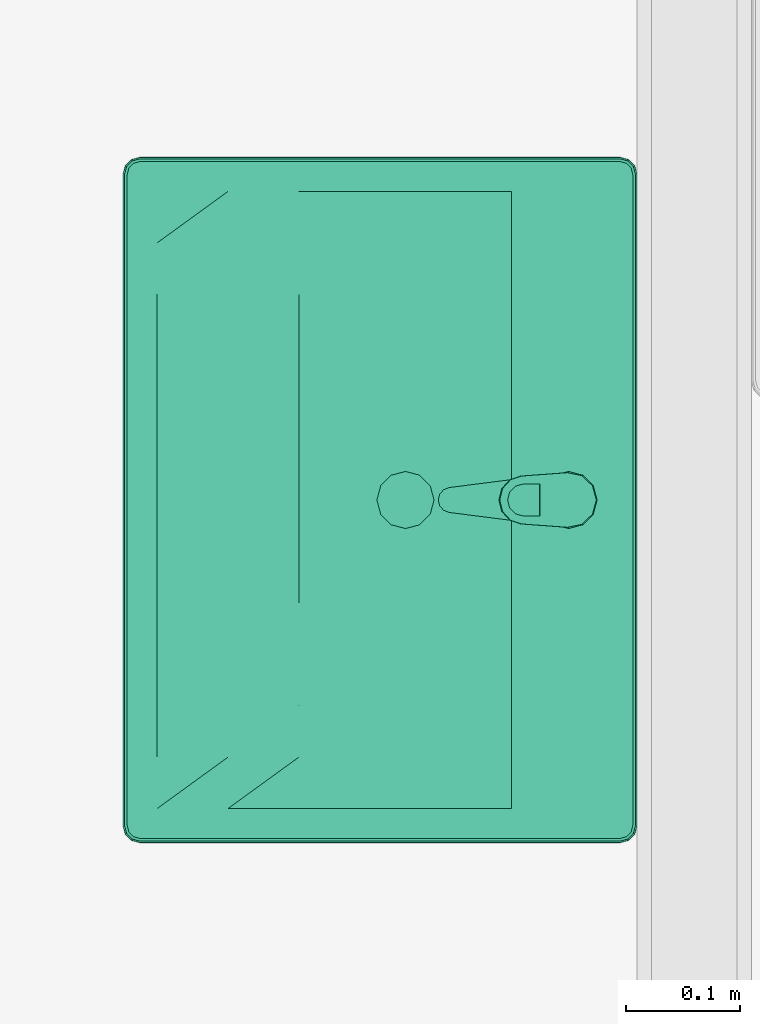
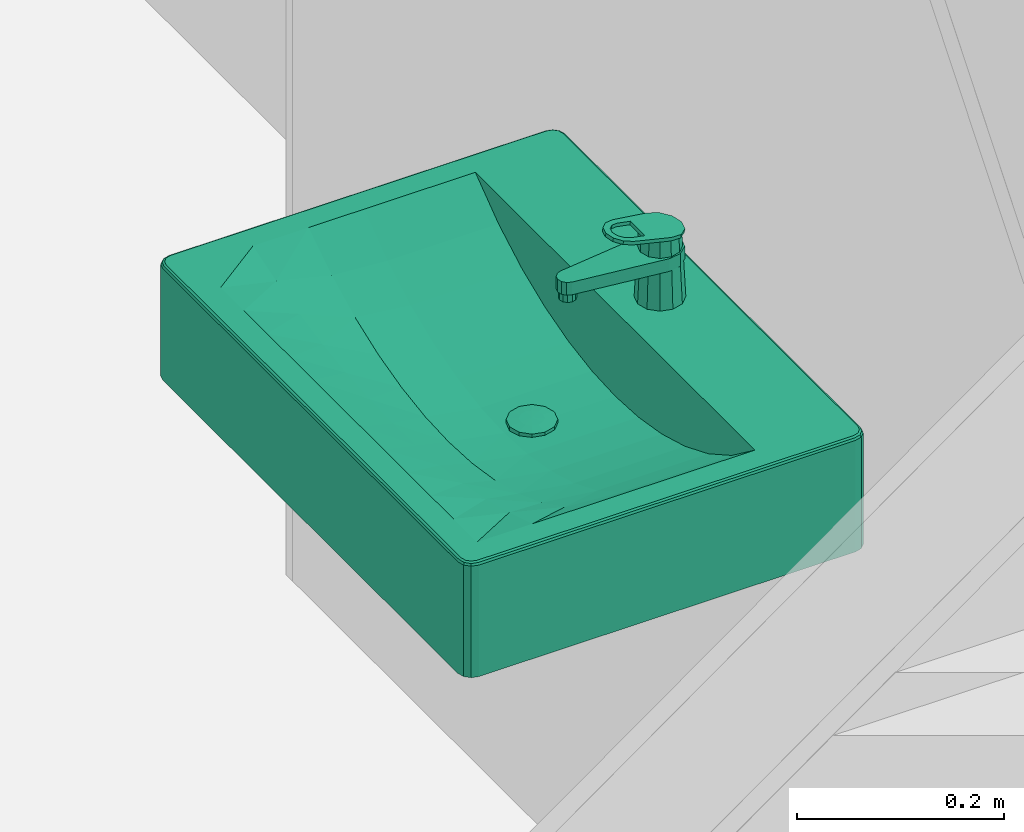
# One storey, part 116 of 135: 1 flow controller.
"""IFC2X3 building model written with IfcOpenShell, lengths in millimetres."""

from ifc_helpers import new_model, entity, si_unit, converted_unit, derived_unit, money_unit, direction, frame, origin_with_axes, place, context, subcontext, project, spatial, open_shell, faceted_brep, surface_model, source, transform, mapped, type_object, type_shapes, element, save


model = new_model("IFC2X3")

# Units and contexts
model_context = context("Model", 3, precision=0.01, world=origin_with_axes(), true_north=direction((0.0, 1.0)))
body_context = subcontext(model_context, "Body", "Model", "MODEL_VIEW")
ifc_project = project(units=[si_unit("LENGTHUNIT", "METRE", prefix="MILLI"), si_unit("AREAUNIT", "SQUARE_METRE"), si_unit("VOLUMEUNIT", "CUBIC_METRE"), converted_unit("PLANEANGLEUNIT", "DEGREE", entity("IfcPlaneAngleMeasure", 0.0174532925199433), si_unit("PLANEANGLEUNIT", "RADIAN"), dimensions=[0, 0, 0, 0, 0, 0, 0]), money_unit("EUR"), converted_unit("TIMEUNIT", "Year", entity("IfcTimeMeasure", 31557600.0), si_unit("TIMEUNIT", "SECOND"), dimensions=[0, 0, 1, 0, 0, 0, 0]), si_unit("MASSUNIT", "GRAM", prefix="KILO"), si_unit("THERMODYNAMICTEMPERATUREUNIT", "DEGREE_CELSIUS"), si_unit("LUMINOUSINTENSITYUNIT", "LUMEN"), si_unit("ENERGYUNIT", "JOULE", prefix="MEGA"), derived_unit("THERMALCONDUCTANCEUNIT", [(si_unit("POWERUNIT", "WATT"), 1), (si_unit("LENGTHUNIT", "METRE"), -1), (si_unit("THERMODYNAMICTEMPERATUREUNIT", "KELVIN"), -1)]), derived_unit("SPECIFICHEATCAPACITYUNIT", [(si_unit("ENERGYUNIT", "JOULE"), 1), (si_unit("MASSUNIT", "GRAM", prefix="KILO"), -1), (si_unit("THERMODYNAMICTEMPERATUREUNIT", "KELVIN"), -1)]), derived_unit("MASSDENSITYUNIT", [(si_unit("MASSUNIT", "GRAM", prefix="KILO"), 1), (si_unit("VOLUMEUNIT", "CUBIC_METRE"), -1)])], contexts=[model_context])

# Site, building, storey
site_placement = place(None, origin_with_axes())
site = spatial("IfcSite", under=ifc_project, at=site_placement, Name="Site", CompositionType="ELEMENT")
building_placement = place(site_placement, origin_with_axes())
building = spatial("IfcBuilding", under=site, at=building_placement, Name="Naam gebouw", CompositionType="ELEMENT")
storey_placement = place(building_placement, origin_with_axes())
storey = spatial("IfcBuildingStorey", under=building, at=storey_placement, Name="Begane grond N", CompositionType="ELEMENT", Elevation=0.0)

# Flow controller
valve_type = type_object("IfcValveType", Name="Wasbak 27", PredefinedType="NOTDEFINED")
shared_shape = source(origin_with_axes(), body_context, "Body", "SurfaceModel", [
    faceted_brep([(-285.0, -450.0, 865.0), (-292.5, -447.9903810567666, 865.0), (-297.9903810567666, -442.5, 865.0), (-300.0, -435.0, 865.0), (-300.0, -15.00000000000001, 865.0), (-297.9903810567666, -7.500000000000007, 865.0), (-292.5, -2.009618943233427, 865.0), (-285.0, 0.0, 865.0), (285.0, 0.0, 865.0), (292.5, -2.009618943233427, 865.0), (297.9903810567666, -7.500000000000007, 865.0), (300.0, -15.00000000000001, 865.0), (300.0, -435.0, 865.0), (297.9903810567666, -442.5, 865.0), (292.5, -447.9903810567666, 865.0), (285.0, -450.0, 865.0), (270.0, -420.0000000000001, 865.0), (270.0, -110.0, 865.0), (-270.0, -110.0, 865.0), (-270.0, -420.0000000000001, 865.0), (-284.9999995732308, -450.0000003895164, 995.0), (-292.499999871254, -447.9903813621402, 995.0), (-297.990381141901, -442.5000000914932, 995.0), (-300.0000001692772, -434.99999979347, 995.0), (-300.0000001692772, -14.99999986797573, 995.0), (-297.990381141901, -7.499999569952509, 995.0), (-292.499999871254, -2.009619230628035, 995.0), (-284.9999995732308, -2.032518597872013e-07, 995.0), (284.9999997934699, -2.032518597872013e-07, 995.0), (292.5000000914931, -2.009619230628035, 995.0), (297.9903813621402, -7.499999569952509, 995.0), (300.0000003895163, -14.99999986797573, 995.0), (300.0000003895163, -434.99999979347, 995.0), (297.9903813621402, -442.5000000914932, 995.0), (292.5000000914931, -447.9903813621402, 995.0), (284.9999997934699, -450.0000003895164, 995.0), (270.0, -110.0, 999.9999996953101), (270.0, -420.0000000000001, 999.9999996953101), (-270.0, -110.0, 999.9999996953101), (-270.0, -420.0000000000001, 999.9999996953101), (-284.9775698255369, -449.8296295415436, 996.2940952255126), (-292.411809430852, -447.8376310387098, 996.2940952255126), (-297.8376308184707, -442.4118096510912, 996.2940952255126), (-299.8296293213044, -434.9775700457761, 996.2940952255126), (-299.8296293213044, -15.02242961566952, 996.2940952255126), (-297.8376308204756, -7.588190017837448, 996.2940952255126), (-292.4118094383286, -2.16236955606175, 996.2940952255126), (-284.9775698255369, -0.1703710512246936, 996.2940952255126), (284.9775700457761, -0.1703710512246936, 996.2940952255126), (292.4118096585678, -2.16236955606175, 996.2940952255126), (297.8376310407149, -7.588190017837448, 996.2940952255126), (299.8296295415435, -15.02242961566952, 996.2940952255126), (299.8296295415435, -434.9775700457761, 996.2940952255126), (297.8376310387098, -442.4118096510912, 996.2940952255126), (292.4118096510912, -447.8376310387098, 996.2940952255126), (284.9775700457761, -449.8296295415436, 996.2940952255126), (284.3417376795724, -4.999997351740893, 999.9999996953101), (-284.3417374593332, -4.999997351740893, 999.9999996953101), (-289.9118111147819, -6.492494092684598, 999.9999996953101), (-293.507506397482, -10.08818876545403, 999.9999996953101), (-295.0000030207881, -15.6582619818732, 999.9999996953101), (-295.0000030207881, -434.3417376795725, 999.9999996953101), (-293.5075063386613, -439.9118111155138, 999.9999996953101), (-289.9118108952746, -443.5075065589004, 999.9999996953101), (-284.3417374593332, -445.0000032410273, 999.9999996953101), (284.3417376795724, -445.0000032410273, 999.9999996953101), (289.9118111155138, -443.5075065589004, 999.9999996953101), (293.5075065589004, -439.9118111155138, 999.9999996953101), (295.0000032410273, -434.3417376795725, 999.9999996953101), (295.0000032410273, -15.6582619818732, 999.9999996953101), (293.5075066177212, -10.08818876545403, 999.9999996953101), (289.911811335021, -6.492494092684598, 999.9999996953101), (-284.8071989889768, -448.5355345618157, 998.5355339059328), (-291.7419365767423, -446.6773772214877, 998.5355339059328), (-296.6773770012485, -441.7419367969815, 998.5355339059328), (-298.5355343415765, -434.807199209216, 998.5355339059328), (-298.5355343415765, -15.1928004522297, 998.5355339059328), (-296.677377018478, -8.258062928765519, 998.5355339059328), (-291.7419366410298, -3.322623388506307, 998.5355339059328), (-284.8071989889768, -1.464466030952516, 998.5355339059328), (284.8071992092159, -1.464466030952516, 998.5355339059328), (291.7419368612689, -3.322623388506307, 998.5355339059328), (296.6773772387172, -8.258062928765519, 998.5355339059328), (298.5355345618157, -15.1928004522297, 998.5355339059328), (298.5355345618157, -434.807199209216, 998.5355339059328), (296.6773772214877, -441.7419367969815, 998.5355339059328), (291.7419367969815, -446.6773772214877, 998.5355339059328), (284.8071992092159, -448.5355345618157, 998.5355339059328), (284.5121082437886, -3.705904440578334, 999.8296291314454), (-284.5121080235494, -3.705904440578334, 999.8296291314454), (-290.581682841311, -5.332242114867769, 999.8296291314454), (-294.667758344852, -9.418316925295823, 999.8296291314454), (-296.2940959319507, -15.487891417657, 999.8296291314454), (-296.2940959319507, -434.5121082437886, 999.8296291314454), (-294.6677583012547, -440.5816828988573, 999.8296291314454), (-290.5816826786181, -444.6677585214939, 999.8296291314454), (-284.5121080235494, -446.2940961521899, 999.8296291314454), (284.5121082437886, -446.2940961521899, 999.8296291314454), (290.5816828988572, -444.6677585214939, 999.8296291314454), (294.6677585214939, -440.5816828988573, 999.8296291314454), (296.2940961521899, -434.5121082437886, 999.8296291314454), (296.2940961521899, -15.487891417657, 999.8296291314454), (294.6677585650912, -9.418316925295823, 999.8296291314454), (290.5816830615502, -5.332242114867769, 999.8296291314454)], [[[0, 1, 2, 3, 4, 5, 6, 7, 8, 9, 10, 11, 12, 13, 14, 15], [16, 17, 18, 19]], [[1, 0, 20, 21]], [[2, 1, 21, 22]], [[3, 2, 22, 23]], [[4, 3, 23, 24]], [[5, 4, 24, 25]], [[6, 5, 25, 26]], [[7, 6, 26, 27]], [[8, 7, 27, 28]], [[9, 8, 28, 29]], [[10, 9, 29, 30]], [[11, 10, 30, 31]], [[12, 11, 31, 32]], [[13, 12, 32, 33]], [[14, 13, 33, 34]], [[15, 14, 34, 35]], [[0, 15, 35, 20]], [[36, 17, 16, 37]], [[38, 18, 17, 36]], [[39, 19, 18, 38]], [[37, 16, 19, 39]], [[21, 20, 40, 41]], [[22, 21, 41, 42]], [[23, 22, 42, 43]], [[24, 23, 43, 44]], [[25, 24, 44, 45]], [[26, 25, 45, 46]], [[27, 26, 46, 47]], [[28, 27, 47, 48]], [[29, 28, 48, 49]], [[30, 29, 49, 50]], [[31, 30, 50, 51]], [[32, 31, 51, 52]], [[33, 32, 52, 53]], [[34, 33, 53, 54]], [[35, 34, 54, 55]], [[20, 35, 55, 40]], [[56, 57, 58, 59, 60, 61, 62, 63, 64, 65, 66, 67, 68, 69, 70, 71], [37, 39, 38, 36]], [[41, 40, 72, 73]], [[42, 41, 73, 74]], [[43, 42, 74, 75]], [[44, 43, 75, 76]], [[45, 44, 76, 77]], [[46, 45, 77, 78]], [[47, 46, 78, 79]], [[48, 47, 79, 80]], [[49, 48, 80, 81]], [[50, 49, 81, 82]], [[51, 50, 82, 83]], [[52, 51, 83, 84]], [[53, 52, 84, 85]], [[54, 53, 85, 86]], [[55, 54, 86, 87]], [[40, 55, 87, 72]], [[88, 89, 57, 56]], [[89, 90, 58, 57]], [[90, 91, 59, 58]], [[91, 92, 60, 59]], [[92, 93, 61, 60]], [[93, 94, 62, 61]], [[94, 95, 63, 62]], [[95, 96, 64, 63]], [[96, 97, 65, 64]], [[97, 98, 66, 65]], [[98, 99, 67, 66]], [[99, 100, 68, 67]], [[100, 101, 69, 68]], [[101, 102, 70, 69]], [[102, 103, 71, 70]], [[103, 88, 56, 71]], [[73, 72, 96, 95]], [[74, 73, 95, 94]], [[75, 74, 94, 93]], [[76, 75, 93, 92]], [[77, 76, 92, 91]], [[78, 77, 91, 90]], [[79, 78, 90, 89]], [[80, 79, 89, 88]], [[81, 80, 88, 103]], [[82, 81, 103, 102]], [[83, 82, 102, 101]], [[84, 83, 101, 100]], [[85, 84, 100, 99]], [[86, 85, 99, 98]], [[87, 86, 98, 97]], [[72, 87, 97, 96]]]),
    faceted_brep([(270.0, -420.0000000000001, 865.0), (-270.0, -420.0000000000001, 865.0), (-270.0, -110.0, 865.0), (270.0, -110.0, 865.0), (-12.49999999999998, -224.368635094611, 865.0), (0.0, -227.718, 865.0), (12.50000000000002, -224.368635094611, 865.0), (21.65063509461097, -215.218, 865.0), (25.0, -202.718, 865.0), (21.65063509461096, -190.218, 865.0), (12.49999999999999, -181.067364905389, 865.0), (0.0, -177.718, 865.0), (-12.50000000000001, -181.067364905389, 865.0), (-21.65063509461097, -190.218, 865.0), (-25.0, -202.718, 865.0), (-21.65063509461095, -215.218, 865.0), (135.0, -420.0000000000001, 1000.0), (90.0, -420.0000000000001, 1000.0), (44.99999999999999, -420.0000000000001, 1000.0), (0.0, -420.0000000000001, 1000.0), (-45.00000000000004, -420.0000000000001, 1000.0), (-90.00000000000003, -420.0000000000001, 1000.0), (-135.0, -420.0000000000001, 1000.0), (-180.0000000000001, -420.0000000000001, 1000.0), (-225.0, -420.0000000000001, 1000.0), (-270.0, -420.0000000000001, 1000.0), (270.0, -420.0000000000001, 1000.0), (225.0, -420.0000000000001, 1000.0), (180.0, -420.0000000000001, 1000.0), (-270.0, -234.0, 1000.0), (-270.0, -172.0, 1000.0), (-270.0, -110.0, 1000.0), (-270.0, -358.0000000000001, 1000.0), (-270.0, -296.0000000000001, 999.9999999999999), (-135.0, -110.0, 922.6004593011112), (-90.00000000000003, -110.0, 909.8887668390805), (-45.00000000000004, -110.0, 902.449942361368), (0.0, -110.0, 900.0), (44.99999999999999, -110.0, 902.449942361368), (90.0, -110.0, 909.8887668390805), (135.0, -110.0, 922.6004593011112), (180.0, -110.0, 941.1231796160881), (225.0, -110.0, 966.3832810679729), (270.0, -110.0, 1000.0), (-225.0, -110.0, 966.3832810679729), (-180.0000000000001, -110.0, 941.1231796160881), (270.0, -296.0000000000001, 1000.0), (270.0, -358.0000000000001, 1000.0), (270.0, -172.0, 1000.0), (270.0, -234.0, 1000.0), (0.0, -227.718, 900.0), (-12.49999999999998, -224.368635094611, 900.6805395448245), (12.50000000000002, -224.368635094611, 900.6805395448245), (21.65063509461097, -215.218, 901.1787290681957), (25.0, -202.718, 901.3610790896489), (21.65063509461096, -190.218, 901.1787290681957), (12.49999999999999, -181.067364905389, 900.6805395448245), (0.0, -177.718, 900.0), (-12.50000000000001, -181.067364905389, 900.6805395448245), (-21.65063509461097, -190.218, 901.1787290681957), (-25.0, -202.718, 901.3610790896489), (-21.65063509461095, -215.218, 901.1787290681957), (90.0, -358.0000000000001, 959.6989661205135), (44.99999999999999, -358.0000000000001, 956.0213334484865), (0.0, -358.0000000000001, 954.7990813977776), (-45.00000000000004, -358.0000000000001, 956.0213334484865), (-90.00000000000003, -358.0000000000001, 959.6989661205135), (-135.0, -358.0000000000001, 965.8650987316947), (-180.0000000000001, -358.0000000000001, 974.5766150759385), (-225.0, -358.0000000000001, 985.9168845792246), (225.0, -358.0000000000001, 985.9168845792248), (180.0, -358.0000000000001, 974.5766150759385), (135.0, -358.0000000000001, 965.8650987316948), (-225.0, -234.0, 966.3832810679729), (-225.0, -172.0, 966.3832810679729), (-225.0, -296.0000000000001, 970.8433791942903), (-135.0, -172.0, 922.6004593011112), (-90.00000000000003, -172.0, 909.8887668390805), (-45.00000000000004, -172.0, 902.449942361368), (0.0, -172.0, 900.0), (44.99999999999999, -172.0, 902.449942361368), (90.0, -172.0, 909.8887668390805), (135.0, -172.0, 922.6004593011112), (180.0, -172.0, 941.1231796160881), (225.0, -172.0, 966.3832810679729), (-180.0000000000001, -172.0, 941.1231796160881), (225.0, -296.0000000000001, 970.8433791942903), (225.0, -234.0, 966.3832810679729), (-45.00000000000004, -234.0, 902.449942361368), (0.0, -234.0, 900.0), (44.99999999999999, -234.0, 902.449942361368), (-180.0000000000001, -234.0, 941.1231796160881), (-135.0, -234.0, 922.6004593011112), (-90.00000000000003, -234.0, 909.8887668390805), (90.0, -234.0, 909.8887668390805), (135.0, -234.0, 922.6004593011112), (180.0, -234.0, 941.1231796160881), (0.0, -296.0000000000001, 911.4604006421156), (44.99999999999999, -296.0000000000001, 913.6864730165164), (90.0, -296.0000000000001, 920.4312036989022), (-45.00000000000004, -296.0000000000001, 913.6864730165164), (-90.00000000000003, -296.0000000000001, 920.4312036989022), (-135.0, -296.0000000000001, 931.904485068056), (-180.0000000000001, -296.0000000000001, 948.4946543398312), (180.0, -296.0000000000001, 948.4946543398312), (135.0, -296.0000000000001, 931.904485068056)], [[[0, 1, 2, 3], [4, 5, 6, 7, 8, 9, 10, 11, 12, 13, 14, 15]], [[16, 17, 18, 19, 20, 21, 22, 23, 24, 25, 1, 0, 26, 27, 28]], [[29, 30, 31, 2, 1, 25, 32, 33]], [[34, 35, 36, 37, 38, 39, 40, 41, 42, 43, 3, 2, 31, 44, 45]], [[46, 47, 26, 0, 3, 43, 48, 49]], [[50, 5, 4, 51]], [[52, 6, 5, 50]], [[53, 7, 6, 52]], [[54, 8, 7, 53]], [[55, 9, 8, 54]], [[56, 10, 9, 55]], [[57, 11, 10, 56]], [[58, 12, 11, 57]], [[59, 13, 12, 58]], [[60, 14, 13, 59]], [[61, 15, 14, 60]], [[51, 4, 15, 61]], [[16, 62, 17]], [[17, 63, 18]], [[18, 64, 19]], [[19, 65, 20]], [[20, 66, 21]], [[21, 67, 22]], [[22, 68, 23]], [[23, 69, 24]], [[24, 32, 25]], [[26, 70, 27]], [[27, 71, 28]], [[28, 72, 16]], [[29, 73, 74, 30]], [[30, 74, 44, 31]], [[69, 33, 32]], [[75, 29, 33]], [[76, 77, 35, 34]], [[77, 78, 36, 35]], [[78, 79, 37, 36]], [[79, 80, 38, 37]], [[80, 81, 39, 38]], [[81, 82, 40, 39]], [[82, 83, 41, 40]], [[83, 84, 42, 41]], [[84, 48, 43, 42]], [[74, 85, 45, 44]], [[85, 76, 34, 45]], [[47, 46, 86]], [[26, 47, 70]], [[87, 49, 48, 84]], [[46, 49, 87]], [[58, 57, 79, 78, 88, 89, 50, 51, 61, 60, 59]], [[56, 55, 54, 53, 52, 50, 89, 90, 80, 79, 57]], [[16, 72, 62]], [[17, 62, 63]], [[18, 63, 64]], [[19, 64, 65]], [[20, 65, 66]], [[21, 66, 67]], [[22, 67, 68]], [[23, 68, 69]], [[24, 69, 32]], [[27, 70, 71]], [[28, 71, 72]], [[75, 73, 29]], [[73, 91, 85, 74]], [[69, 75, 33]], [[92, 93, 77, 76]], [[93, 88, 78, 77]], [[90, 94, 81, 80]], [[94, 95, 82, 81]], [[95, 96, 83, 82]], [[96, 87, 84, 83]], [[91, 92, 76, 85]], [[46, 87, 86]], [[47, 86, 70]], [[97, 89, 88]], [[98, 90, 89]], [[72, 99, 62]], [[62, 98, 63]], [[63, 97, 64]], [[64, 100, 65]], [[65, 101, 66]], [[66, 102, 67]], [[67, 103, 68]], [[68, 75, 69]], [[70, 104, 71]], [[71, 105, 72]], [[103, 73, 75]], [[103, 91, 73]], [[101, 93, 92]], [[100, 88, 93]], [[99, 94, 90]], [[105, 95, 94]], [[104, 96, 95]], [[86, 87, 96]], [[102, 92, 91]], [[70, 86, 104]], [[98, 89, 97]], [[97, 88, 100]], [[99, 90, 98]], [[72, 105, 99]], [[62, 99, 98]], [[63, 98, 97]], [[64, 97, 100]], [[65, 100, 101]], [[66, 101, 102]], [[67, 102, 103]], [[68, 103, 75]], [[71, 104, 105]], [[102, 91, 103]], [[100, 93, 101]], [[101, 92, 102]], [[105, 94, 99]], [[104, 95, 105]], [[86, 96, 104]]]),
    faceted_brep([(-21.65063509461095, -215.218, 900.0), (-25.0, -202.718, 900.0), (-21.65063509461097, -190.218, 900.0), (-12.50000000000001, -181.067364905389, 900.0), (0.0, -177.718, 900.0), (12.49999999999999, -181.067364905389, 900.0), (21.65063509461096, -190.218, 900.0), (25.0, -202.718, 900.0), (21.65063509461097, -215.218, 900.0), (12.50000000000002, -224.368635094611, 900.0), (0.0, -227.718, 900.0), (-12.49999999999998, -224.368635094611, 900.0), (-21.65063509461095, -215.218, 905.0), (-25.0, -202.718, 905.0), (-21.65063509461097, -190.218, 905.0), (-12.50000000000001, -181.067364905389, 905.0), (0.0, -177.718, 905.0), (12.49999999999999, -181.067364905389, 905.0), (21.65063509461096, -190.218, 905.0), (25.0, -202.718, 905.0), (21.65063509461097, -215.218, 905.0), (12.50000000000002, -224.368635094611, 905.0), (0.0, -227.718, 905.0), (-12.49999999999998, -224.368635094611, 905.0)], [[[0, 1, 2, 3, 4, 5, 6, 7, 8, 9, 10, 11]], [[0, 12, 13, 1]], [[1, 13, 14, 2]], [[2, 14, 15, 3]], [[3, 15, 16, 4]], [[4, 16, 17, 5]], [[5, 17, 18, 6]], [[6, 18, 19, 7]], [[7, 19, 20, 8]], [[8, 20, 21, 9]], [[9, 21, 22, 10]], [[10, 22, 23, 11]], [[11, 23, 12, 0]], [[12, 23, 22, 21, 20, 19, 18, 17, 16, 15, 14, 13]]]),
    surface_model("IfcShellBasedSurfaceModel", [(0.0, -202.718, 907.0), (6.310952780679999, -191.7871091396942, 906.4975737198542), (0.0, -190.09609443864, 906.4975737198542), (10.93089086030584, -196.40704721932, 906.4975737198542), (12.5, -181.067364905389, 905.0), (0.0, -177.718, 905.0), (-6.310952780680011, -191.7871091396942, 906.4975737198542), (12.62190556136, -202.718, 906.4975737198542), (21.65063509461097, -190.218, 905.0), (-12.50000000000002, -181.067364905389, 905.0), (-10.93089086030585, -196.40704721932, 906.4975737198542), (10.93089086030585, -209.02895278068, 906.4975737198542), (25.0, -202.718, 905.0), (-21.65063509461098, -190.218, 905.0), (-12.62190556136, -202.718, 906.4975737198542), (6.310952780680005, -213.6488908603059, 906.4975737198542), (21.65063509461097, -215.218, 905.0), (-25.0, -202.718, 905.0), (-10.93089086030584, -209.02895278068, 906.4975737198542), (0.0, -215.33990556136, 906.4975737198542), (12.50000000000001, -224.368635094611, 905.0), (-21.65063509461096, -215.218, 905.0), (-6.310952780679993, -213.6488908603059, 906.4975737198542), (0.0, -227.718, 905.0), (-12.49999999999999, -224.368635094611, 905.0)], [open_shell([[[0, 1, 2]], [[0, 3, 1]], [[1, 4, 5, 2]], [[0, 2, 6]], [[0, 7, 3]], [[3, 8, 4, 1]], [[2, 5, 9, 6]], [[0, 6, 10]], [[0, 11, 7]], [[7, 12, 8, 3]], [[6, 9, 13, 10]], [[0, 10, 14]], [[0, 15, 11]], [[11, 16, 12, 7]], [[10, 13, 17, 14]], [[0, 14, 18]], [[0, 19, 15]], [[15, 20, 16, 11]], [[14, 17, 21, 18]], [[0, 18, 22]], [[0, 22, 19]], [[19, 23, 20, 15]], [[18, 21, 24, 22]], [[22, 24, 23, 19]]])]),
    faceted_brep([(-12.50000000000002, -38.34936490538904, 1000.0), (-10.587322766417, -41.66221905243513, 1076.507089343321), (0.0, -38.79807692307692, 1075.961538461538), (0.0, -34.99999999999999, 1000.0), (-21.65063509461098, -47.50000000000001, 1000.0), (-18.27355038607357, -49.44976076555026, 1077.99043062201), (-21.0, -60.00000000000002, 1080.0), (-18.10034137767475, -70.45023696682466, 1081.990521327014), (-10.41410590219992, -78.03776053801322, 1083.435763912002), (0.0, -80.80188679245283, 1083.962264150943), (10.41410590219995, -78.0377605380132, 1083.435763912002), (18.10034137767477, -70.45023696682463, 1081.990521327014), (21.0, -59.99999999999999, 1080.0), (18.27355038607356, -49.44976076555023, 1077.99043062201), (10.58732276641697, -41.66221905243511, 1076.507089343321), (12.5, -38.34936490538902, 1000.0), (21.65063509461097, -47.49999999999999, 1000.0), (25.0, -59.99999999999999, 1000.0), (21.65063509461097, -72.5, 1000.0), (12.50000000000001, -81.65063509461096, 1000.0), (0.0, -84.99999999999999, 1000.0), (-12.49999999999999, -81.65063509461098, 1000.0), (-21.65063509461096, -72.50000000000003, 1000.0), (-25.0, -60.00000000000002, 1000.0)], [[[0, 1, 2, 3]], [[4, 5, 1, 0]], [[1, 5, 6, 7, 8, 9, 10, 11, 12, 13, 14, 2]], [[3, 2, 14, 15]], [[0, 3, 15, 16, 17, 18, 19, 20, 21, 22, 23, 4]], [[23, 6, 5, 4]], [[22, 7, 6, 23]], [[21, 8, 7, 22]], [[20, 9, 8, 21]], [[19, 10, 9, 20]], [[18, 11, 10, 19]], [[17, 12, 11, 18]], [[16, 13, 12, 17]], [[15, 14, 13, 16]]]),
    faceted_brep([(-9.000000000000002, -163.0, 1035.0), (-9.000000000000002, -163.0, 1045.0), (-7.794228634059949, -158.5, 1045.0), (-7.794228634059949, -158.5, 1035.0), (-7.794228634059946, -167.5, 1035.0), (-7.794228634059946, -167.5, 1045.0), (-4.499999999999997, -170.79422863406, 1045.0), (0.0, -172.0, 1045.0), (4.500000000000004, -170.79422863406, 1045.0), (7.794228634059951, -167.5, 1045.0), (9.000000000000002, -163.0, 1045.0), (7.794228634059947, -158.5, 1045.0), (4.499999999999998, -155.2057713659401, 1045.0), (0.0, -154.0, 1045.0), (-4.500000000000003, -155.2057713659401, 1045.0), (-4.500000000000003, -155.2057713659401, 1035.0), (0.0, -154.0, 1035.0), (4.499999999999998, -155.2057713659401, 1035.0), (7.794228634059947, -158.5, 1035.0), (9.000000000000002, -163.0, 1035.0), (7.794228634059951, -167.5, 1035.0), (4.500000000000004, -170.79422863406, 1035.0), (0.0, -172.0, 1035.0), (-4.499999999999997, -170.79422863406, 1035.0)], [[[0, 1, 2, 3]], [[4, 5, 1, 0]], [[1, 5, 6, 7, 8, 9, 10, 11, 12, 13, 14, 2]], [[3, 2, 14, 15]], [[0, 3, 15, 16, 17, 18, 19, 20, 21, 22, 23, 4]], [[23, 6, 5, 4]], [[22, 7, 6, 23]], [[21, 8, 7, 22]], [[20, 9, 8, 21]], [[19, 10, 9, 20]], [[18, 11, 10, 19]], [[17, 12, 11, 18]], [[16, 13, 12, 17]], [[15, 14, 13, 16]]]),
    faceted_brep([(12.87171762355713, -39.74369617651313, 1060.0), (-1.019988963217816e-06, -36.00002168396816, 1060.0), (-12.87171934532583, -39.74369727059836, 1060.0), (-21.72780617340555, -49.80679647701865, 1060.0), (-23.80539974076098, -63.04990202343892, 1060.0), (-10.912, -164.3883, 1060.0), (-9.02891689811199, -169.2831346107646, 1060.0), (-5.093388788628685, -172.7496928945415, 1060.0), (-3.626798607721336e-05, -173.9999600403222, 1060.0), (5.093324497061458, -172.7497264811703, 1060.0), (9.02887546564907, -169.2831941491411, 1060.0), (10.9119908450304, -164.3883719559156, 1060.0), (23.8054, -63.04989999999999, 1060.0), (21.72780530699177, -49.80679463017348, 1060.0), (-11.00000000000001, -40.94744111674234, 1060.0), (0.0, -37.99999999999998, 1060.0), (11.0, -40.94744111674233, 1060.0), (19.05255888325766, -48.99999999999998, 1060.0), (22.00000000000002, -59.99999999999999, 1060.0), (19.05255888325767, -70.99999999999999, 1060.0), (11.00000000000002, -79.05255888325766, 1060.0), (0.0, -82.0, 1060.0), (-10.99999999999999, -79.05255888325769, 1060.0), (-19.05255888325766, -71.00000000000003, 1060.0), (-22.00000000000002, -60.0, 1060.0), (-19.05255888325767, -48.99999999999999, 1060.0), (12.87171762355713, -39.74369617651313, 1045.0), (-1.019988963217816e-06, -36.00002168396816, 1045.0), (-12.87171934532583, -39.74369727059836, 1045.0), (-21.72780617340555, -49.80679647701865, 1045.0), (-23.80539974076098, -63.04990202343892, 1045.0), (-10.912, -164.3883, 1045.0), (-9.02891689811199, -169.2831346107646, 1045.0), (-5.093388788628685, -172.7496928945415, 1045.0), (-3.626798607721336e-05, -173.9999600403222, 1045.0), (5.093324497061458, -172.7497264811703, 1045.0), (9.02887546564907, -169.2831941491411, 1045.0), (10.9119908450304, -164.3883719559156, 1045.0), (23.8054, -63.04989999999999, 1045.0), (21.72780530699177, -49.80679463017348, 1045.0), (0.0, -37.24999999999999, 1045.0), (-11.37500000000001, -40.297922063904, 1045.0), (11.375, -40.297922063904, 1045.0), (19.70207793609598, -48.62499999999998, 1045.0), (22.75000000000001, -59.99999999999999, 1045.0), (19.70207793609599, -71.375, 1045.0), (11.37500000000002, -79.70207793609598, 1045.0), (0.0, -82.75, 1045.0), (-11.37499999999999, -79.702077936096, 1045.0), (-19.70207793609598, -71.37500000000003, 1045.0), (-22.75000000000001, -60.0, 1045.0), (-19.70207793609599, -48.62499999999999, 1045.0)], [[[0, 1, 2, 3, 4, 5, 6, 7, 8, 9, 10, 11, 12, 13], [14, 15, 16, 17, 18, 19, 20, 21, 22, 23, 24, 25]], [[26, 27, 1, 0]], [[27, 28, 2, 1]], [[28, 29, 3, 2]], [[29, 30, 4, 3]], [[30, 31, 5, 4]], [[31, 32, 6, 5]], [[32, 33, 7, 6]], [[33, 34, 8, 7]], [[34, 35, 9, 8]], [[35, 36, 10, 9]], [[36, 37, 11, 10]], [[37, 38, 12, 11]], [[38, 39, 13, 12]], [[39, 26, 0, 13]], [[40, 15, 14, 41]], [[42, 16, 15, 40]], [[16, 42, 43, 17]], [[17, 43, 44, 18]], [[18, 44, 45, 19]], [[19, 45, 46, 20]], [[20, 46, 47, 21]], [[48, 22, 21, 47]], [[49, 23, 22, 48]], [[50, 24, 23, 49]], [[51, 25, 24, 50]], [[41, 14, 25, 51]], [[34, 33, 32, 31, 30, 29, 28, 27, 26, 39, 38, 37, 36, 35], [48, 47, 46, 45, 44, 43, 42, 40, 41, 51, 50, 49]]]),
    faceted_brep([(-23.893, -61.69256934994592, 1080.322394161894), (-23.893, -60.94412091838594, 1084.251748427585), (-21.29642141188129, -48.47683276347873, 1081.877026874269), (-21.29642141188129, -49.22528119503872, 1077.947672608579), (-20.94593649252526, -101.8367022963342, 1087.968895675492), (-20.94593649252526, -101.0882538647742, 1091.898249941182), (-17.66313911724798, -110.765918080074, 1093.74161455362), (-10.06143529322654, -117.7152976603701, 1095.065305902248), (0.0004426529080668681, -120.2371634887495, 1095.54566129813), (10.06221236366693, -117.7148809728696, 1095.0652265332), (17.66361794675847, -110.7651865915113, 1093.741475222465), (20.946, -101.0873864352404, 1091.898084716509), (23.89302047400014, -60.9438419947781, 1084.251695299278), (21.29629106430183, -48.47658415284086, 1081.876979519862), (12.4716815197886, -39.16035412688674, 1080.102459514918), (-0.0001423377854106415, -35.71958706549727, 1079.447075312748), (-12.47192457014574, -39.16049972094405, 1080.102487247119), (-14.0, -84.79235429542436, 1088.79426907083), (14.0, -84.79235429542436, 1088.79426907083), (14.0, -99.60798455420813, 1091.616293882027), (12.12435565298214, -106.4843545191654, 1092.926078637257), (7.000000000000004, -111.5182067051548, 1093.884907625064), (0.0, -113.3607244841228, 1094.235863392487), (-6.999999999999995, -111.5182067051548, 1093.884907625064), (-12.12435565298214, -106.4843545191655, 1092.926078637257), (-14.0, -99.60798455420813, 1091.616293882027), (-12.47192457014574, -39.90894815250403, 1076.173132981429), (-0.0001423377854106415, -36.46803549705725, 1075.517721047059), (12.4716815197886, -39.90880255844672, 1076.173105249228), (21.29629106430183, -49.22503258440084, 1077.947625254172), (23.89302047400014, -61.69229042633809, 1080.322341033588), (20.946, -101.8358348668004, 1087.968730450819), (17.66361794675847, -111.5136350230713, 1089.812120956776), (10.06221236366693, -118.4633294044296, 1091.13587226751), (0.0004426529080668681, -120.9856119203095, 1091.61630703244), (-10.06143529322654, -118.4637460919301, 1091.135951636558), (-17.66313911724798, -111.514366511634, 1089.81226028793), (-14.0, -85.54080272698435, 1084.86491480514), (-14.0, -100.3564329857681, 1087.686939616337), (-12.12435565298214, -107.2328029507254, 1088.996724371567), (-6.999999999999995, -112.2666551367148, 1089.955553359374), (0.0, -114.1091729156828, 1090.306509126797), (7.000000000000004, -112.2666551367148, 1089.955553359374), (12.12435565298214, -107.2328029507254, 1088.996724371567), (14.0, -100.3564329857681, 1087.686939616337), (14.0, -85.54080272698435, 1084.86491480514)], [[[0, 1, 2, 3]], [[4, 5, 1, 0]], [[1, 5, 6, 7, 8, 9, 10, 11, 12, 13, 14, 15, 16, 2], [17, 18, 19, 20, 21, 22, 23, 24, 25]], [[3, 2, 16, 26]], [[0, 3, 26, 27, 28, 29, 30, 31, 32, 33, 34, 35, 36, 4], [37, 38, 39, 40, 41, 42, 43, 44, 45]], [[36, 6, 5, 4]], [[35, 7, 6, 36]], [[34, 8, 7, 35]], [[33, 9, 8, 34]], [[32, 10, 9, 33]], [[31, 11, 10, 32]], [[30, 12, 11, 31]], [[29, 13, 12, 30]], [[28, 14, 13, 29]], [[27, 15, 14, 28]], [[26, 16, 15, 27]], [[45, 18, 17, 37]], [[44, 19, 18, 45]], [[43, 20, 19, 44]], [[42, 21, 20, 43]], [[41, 22, 21, 42]], [[40, 23, 22, 41]], [[39, 24, 23, 40]], [[38, 25, 24, 39]], [[37, 17, 25, 38]]]),
])
type_shapes(valve_type, [shared_shape])
flow_controller_placement = place(storey_placement, frame((33383.11817762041, 16164.40092824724, -150.0), z_axis=(0.0, 0.0, 1.0), x_axis=(0.0, -1.0, 0.0)))
element("IfcFlowController", 1, at=flow_controller_placement, inside=storey, type_object=valve_type, Name="_Sanitair-x", ObjectType="Electric Distribution Board", context=body_context, shape_type="MappedRepresentation", body=[
    mapped(shared_shape, transform((0.0, 0.0, 0.0))),
])

save(model, "model.ifc")
